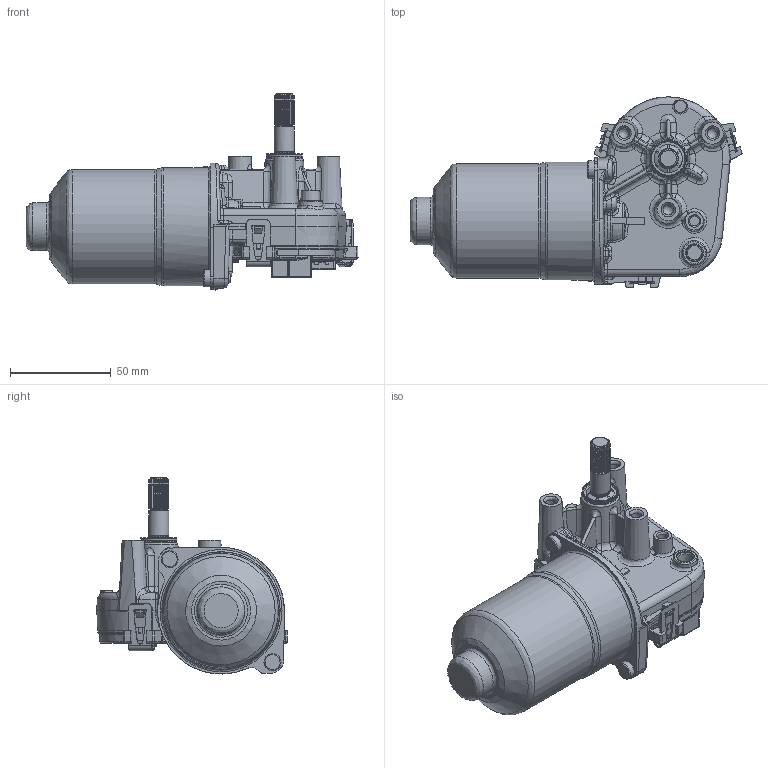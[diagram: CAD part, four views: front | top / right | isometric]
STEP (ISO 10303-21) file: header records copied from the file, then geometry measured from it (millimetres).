
FILE_DESCRIPTION (( 'STEP AP214' ), '1' );
FILE_NAME ('F006B20413.STEP', '2014-01-29T04:05:12', ( '' ), ( '' ), 'SwSTEP 2.0', 'SolidWorks 2012', '' );
FILE_SCHEMA (( 'AUTOMOTIVE_DESIGN' ));
Length unit declared in the file: millimetre
Products named in the file (1): F006B20413
Bounding box: 165.11 x 94.7 x 97.49 mm (x, y, z)
Volume: 375577.5 mm3; surface area: 54723.4 mm2
Topology: 1 solids, 12 shells, 1948 faces, 5489 edges, 3486 vertices
Faces by surface type: plane 856, cylinder 538, bspline 465, cone 88, torus 1
Full cylindrical faces by diameter (mm): 1.6 x2, 3.9 x1, 5 x3, 6 x1, 7 x1, 8.5 x2, 9 x1, 9.59 x2, 10 x4, 17.3 x1, 17.8 x2, 18 x1, 23.7 x1, 56.9 x1, 58.7 x1
Entity records: 129309 total; most frequent: CARTESIAN_POINT 64800, ORIENTED_EDGE 10634, DIRECTION 6252, EDGE_CURVE 5317, VERTEX_POINT 3428, LINE 2410, VECTOR 2410, B_SPLINE_CURVE_WITH_KNOTS 2343
